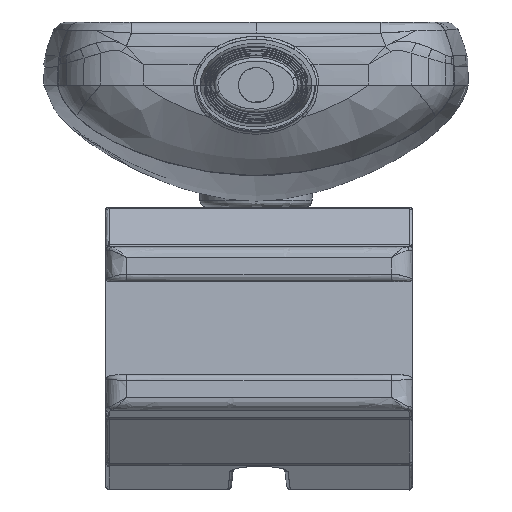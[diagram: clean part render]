
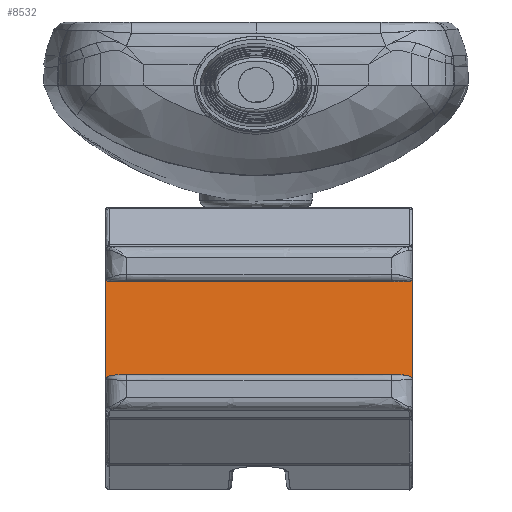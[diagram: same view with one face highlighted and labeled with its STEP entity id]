
A CAD part, front view. The second image highlights one B-rep face of the part: STEP entity #8532.
In plain terms, the highlighted free-form (B-spline) face has degree [1, 1] with [2, 2] control points.
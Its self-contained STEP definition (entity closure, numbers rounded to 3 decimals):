
#137=B_SPLINE_SURFACE_WITH_KNOTS('',1,1,((#51936,#51937),(#51938,#51939)),
 .UNSPECIFIED.,.F.,.F.,.F.,(2,2),(2,2),(0.,1.),(0.,1.),.UNSPECIFIED.);
#761=(
BOUNDED_CURVE()
B_SPLINE_CURVE(2,(#51941,#51942,#51943,#51944,#51945,#51946,#51947,#51948,
#51949,#51950,#51951,#51952,#51953,#51954,#51955,#51956,#51957,#51958,#51959,
#51960,#51961,#51962,#51963,#51964,#51965),.UNSPECIFIED.,.T.,.F.)
B_SPLINE_CURVE_WITH_KNOTS((3,2,2,2,2,2,2,2,2,2,2,2,3),(0.,1.,2.,3.231,
4.231,5.462,6.462,7.462,8.462,
9.693,10.693,11.924,12.924),
 .UNSPECIFIED.)
CURVE()
GEOMETRIC_REPRESENTATION_ITEM()
RATIONAL_B_SPLINE_CURVE((1.,1.,1.,1.,1.,0.816,1.,1.,1.,0.816,
1.,1.,1.,1.,1.,1.,1.,0.816,1.,1.,1.,0.816,1.,1.,
1.))
REPRESENTATION_ITEM('')
);
#8532=ADVANCED_FACE('',(#9172),#137,.T.);
#9172=FACE_OUTER_BOUND('',#9819,.T.);
#9819=EDGE_LOOP('',(#11179));
#11179=ORIENTED_EDGE('',*,*,#17979,.T.);
#12879=PCURVE('',#137,#14579);
#14579=DEFINITIONAL_REPRESENTATION('',(#20234),#83322);
#16279=SURFACE_CURVE('',#761,(#12879),.PCURVE_S1.);
#17979=EDGE_CURVE('',#22194,#22194,#16279,.T.);
#20234=B_SPLINE_CURVE_WITH_KNOTS('',2,(#51966,#51967,#51968,#51969,#51970,
#51971,#51972,#51973,#51974,#51975,#51976,#51977,#51978,#51979,#51980,#51981,
#51982,#51983,#51984,#51985,#51986,#51987,#51988,#51989,#51990,#51991,#51992,
#51993,#51994,#51995,#51996,#51997,#51998,#51999,#52000,#52001,#52002,#52003,
#52004,#52005,#52006,#52007,#52008,#52009,#52010,#52011,#52012,#52013,#52014),
 .UNSPECIFIED.,.T.,.F.,(3,2,2,2,2,2,2,2,2,2,2,2,2,2,2,2,2,2,2,2,2,2,2,2,
3),(0.,1.077,2.154,2.423,2.692,
2.962,3.231,4.308,4.577,4.846,
5.116,5.385,6.462,7.539,8.616,
8.885,9.154,9.424,9.693,10.77,
11.039,11.308,11.578,11.847,12.924),
 .UNSPECIFIED.);
#22194=VERTEX_POINT('',#51940);
#51936=CARTESIAN_POINT('',(-21.468,40.2,-50.538));
#51937=CARTESIAN_POINT('',(22.332,40.2,-50.538));
#51938=CARTESIAN_POINT('',(-21.468,42.5,-27.251));
#51939=CARTESIAN_POINT('',(22.332,42.5,-27.251));
#51940=CARTESIAN_POINT('',(-21.468,40.2,-50.538));
#51941=CARTESIAN_POINT('',(-21.468,40.2,-50.538));
#51942=CARTESIAN_POINT('',(-21.468,41.35,-38.894));
#51943=CARTESIAN_POINT('',(-21.468,42.5,-27.251));
#51944=CARTESIAN_POINT('',(-14.85,42.5,-27.251));
#51945=CARTESIAN_POINT('',(-8.232,42.5,-27.251));
#51946=CARTESIAN_POINT('',(-7.879,42.402,-28.246));
#51947=CARTESIAN_POINT('',(-6.818,42.402,-28.246));
#51948=CARTESIAN_POINT('',(0.432,42.402,-28.246));
#51949=CARTESIAN_POINT('',(7.682,42.402,-28.246));
#51950=CARTESIAN_POINT('',(8.743,42.402,-28.246));
#51951=CARTESIAN_POINT('',(9.096,42.5,-27.251));
#51952=CARTESIAN_POINT('',(15.714,42.5,-27.251));
#51953=CARTESIAN_POINT('',(22.332,42.5,-27.251));
#51954=CARTESIAN_POINT('',(22.332,41.35,-38.894));
#51955=CARTESIAN_POINT('',(22.332,40.2,-50.538));
#51956=CARTESIAN_POINT('',(15.714,40.2,-50.538));
#51957=CARTESIAN_POINT('',(9.096,40.2,-50.538));
#51958=CARTESIAN_POINT('',(8.743,40.298,-49.542));
#51959=CARTESIAN_POINT('',(7.682,40.298,-49.542));
#51960=CARTESIAN_POINT('',(0.432,40.298,-49.542));
#51961=CARTESIAN_POINT('',(-6.818,40.298,-49.542));
#51962=CARTESIAN_POINT('',(-7.879,40.298,-49.542));
#51963=CARTESIAN_POINT('',(-8.232,40.2,-50.538));
#51964=CARTESIAN_POINT('',(-14.85,40.2,-50.538));
#51965=CARTESIAN_POINT('',(-21.468,40.2,-50.538));
#51966=CARTESIAN_POINT('',(0.,0.));
#51967=CARTESIAN_POINT('',(0.5,0.));
#51968=CARTESIAN_POINT('',(1.,0.));
#51969=CARTESIAN_POINT('',(1.,0.151));
#51970=CARTESIAN_POINT('',(1.,0.302));
#51971=CARTESIAN_POINT('',(0.991,0.304));
#51972=CARTESIAN_POINT('',(0.983,0.307));
#51973=CARTESIAN_POINT('',(0.975,0.31));
#51974=CARTESIAN_POINT('',(0.969,0.315));
#51975=CARTESIAN_POINT('',(0.963,0.319));
#51976=CARTESIAN_POINT('',(0.96,0.324));
#51977=CARTESIAN_POINT('',(0.957,0.329));
#51978=CARTESIAN_POINT('',(0.957,0.334));
#51979=CARTESIAN_POINT('',(0.957,0.5));
#51980=CARTESIAN_POINT('',(0.957,0.666));
#51981=CARTESIAN_POINT('',(0.957,0.671));
#51982=CARTESIAN_POINT('',(0.96,0.676));
#51983=CARTESIAN_POINT('',(0.963,0.681));
#51984=CARTESIAN_POINT('',(0.969,0.685));
#51985=CARTESIAN_POINT('',(0.975,0.69));
#51986=CARTESIAN_POINT('',(0.983,0.693));
#51987=CARTESIAN_POINT('',(0.991,0.696));
#51988=CARTESIAN_POINT('',(1.,0.698));
#51989=CARTESIAN_POINT('',(1.,0.849));
#51990=CARTESIAN_POINT('',(1.,1.));
#51991=CARTESIAN_POINT('',(0.5,1.));
#51992=CARTESIAN_POINT('',(0.,1.));
#51993=CARTESIAN_POINT('',(0.,0.849));
#51994=CARTESIAN_POINT('',(0.,0.698));
#51995=CARTESIAN_POINT('',(0.009,0.696));
#51996=CARTESIAN_POINT('',(0.017,0.693));
#51997=CARTESIAN_POINT('',(0.025,0.69));
#51998=CARTESIAN_POINT('',(0.031,0.685));
#51999=CARTESIAN_POINT('',(0.037,0.681));
#52000=CARTESIAN_POINT('',(0.04,0.676));
#52001=CARTESIAN_POINT('',(0.043,0.671));
#52002=CARTESIAN_POINT('',(0.043,0.666));
#52003=CARTESIAN_POINT('',(0.043,0.5));
#52004=CARTESIAN_POINT('',(0.043,0.334));
#52005=CARTESIAN_POINT('',(0.043,0.329));
#52006=CARTESIAN_POINT('',(0.04,0.324));
#52007=CARTESIAN_POINT('',(0.037,0.319));
#52008=CARTESIAN_POINT('',(0.031,0.315));
#52009=CARTESIAN_POINT('',(0.025,0.31));
#52010=CARTESIAN_POINT('',(0.017,0.307));
#52011=CARTESIAN_POINT('',(0.009,0.304));
#52012=CARTESIAN_POINT('',(0.,0.302));
#52013=CARTESIAN_POINT('',(0.,0.151));
#52014=CARTESIAN_POINT('',(0.,0.));
#83322=(
GEOMETRIC_REPRESENTATION_CONTEXT(2)
PARAMETRIC_REPRESENTATION_CONTEXT()
REPRESENTATION_CONTEXT('pspace','')
);
